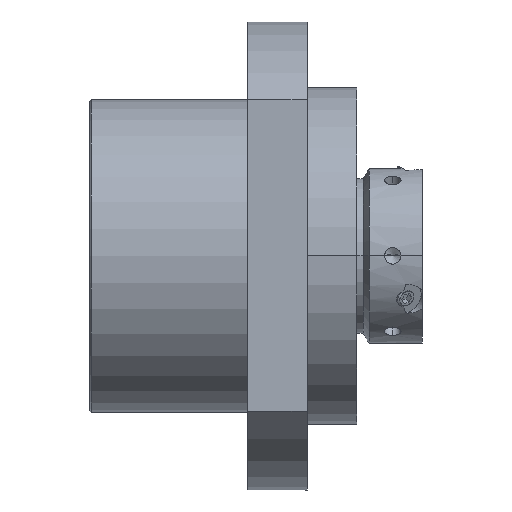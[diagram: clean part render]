
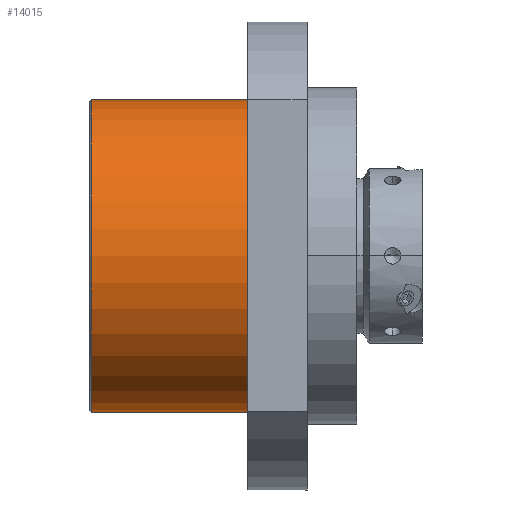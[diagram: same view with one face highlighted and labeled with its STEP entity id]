
A CAD part, top view. The second image highlights one B-rep face of the part: STEP entity #14015.
In plain terms, the highlighted cylindrical face has radius 47.5 mm (diameter 95 mm), a partial arc.
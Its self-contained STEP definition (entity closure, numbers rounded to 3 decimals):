
#276 = CYLINDRICAL_SURFACE ( 'NONE', #11682, 47.5 ) ;
#311 = DIRECTION ( 'NONE',  ( -1., 0., 0. ) ) ;
#460 = EDGE_CURVE ( 'NONE', #17884, #5199, #9783, .T. ) ;
#507 = VERTEX_POINT ( 'NONE', #15328 ) ;
#1812 = DIRECTION ( 'NONE',  ( -1., 0., 0. ) ) ;
#3709 = EDGE_CURVE ( 'NONE', #5199, #8458, #14455, .T. ) ;
#3875 = FACE_OUTER_BOUND ( 'NONE', #8011, .T. ) ;
#3937 = EDGE_CURVE ( 'NONE', #507, #8458, #22834, .T. ) ;
#3946 = CARTESIAN_POINT ( 'NONE',  ( -2.5, -47.5, 0. ) ) ;
#4217 = DIRECTION ( 'NONE',  ( -1., 0., 0. ) ) ;
#5199 = VERTEX_POINT ( 'NONE', #14263 ) ;
#8011 = EDGE_LOOP ( 'NONE', ( #18388, #20613, #15722, #16279 ) ) ;
#8057 = CARTESIAN_POINT ( 'NONE',  ( 48., -47.5, 0. ) ) ;
#8458 = VERTEX_POINT ( 'NONE', #21562 ) ;
#9212 = DIRECTION ( 'NONE',  ( -1., 0., 0. ) ) ;
#9281 = AXIS2_PLACEMENT_3D ( 'NONE', #11372, #1812, #15249 ) ;
#9764 = DIRECTION ( 'NONE',  ( 0., -1., 0. ) ) ;
#9783 = CIRCLE ( 'NONE', #9281, 47.5 ) ;
#10754 = LINE ( 'NONE', #3946, #14981 ) ;
#11372 = CARTESIAN_POINT ( 'NONE',  ( 48., 0., 0. ) ) ;
#11682 = AXIS2_PLACEMENT_3D ( 'NONE', #19648, #4217, #9764 ) ;
#13557 = EDGE_CURVE ( 'NONE', #17884, #507, #10754, .T. ) ;
#14015 = ADVANCED_FACE ( 'NONE', ( #3875 ), #276, .T. ) ;
#14263 = CARTESIAN_POINT ( 'NONE',  ( 48., 47.5, 0. ) ) ;
#14455 = LINE ( 'NONE', #23531, #24041 ) ;
#14745 = DIRECTION ( 'NONE',  ( 0., -1., 0. ) ) ;
#14981 = VECTOR ( 'NONE', #22898, 1000. ) ;
#15249 = DIRECTION ( 'NONE',  ( 0., -1., 0. ) ) ;
#15328 = CARTESIAN_POINT ( 'NONE',  ( 0.5, -47.5, 0. ) ) ;
#15722 = ORIENTED_EDGE ( 'NONE', *, *, #3937, .F. ) ;
#16279 = ORIENTED_EDGE ( 'NONE', *, *, #13557, .F. ) ;
#16908 = CARTESIAN_POINT ( 'NONE',  ( 0.5, 0., 0. ) ) ;
#17884 = VERTEX_POINT ( 'NONE', #8057 ) ;
#18058 = AXIS2_PLACEMENT_3D ( 'NONE', #16908, #9212, #14745 ) ;
#18388 = ORIENTED_EDGE ( 'NONE', *, *, #460, .T. ) ;
#19648 = CARTESIAN_POINT ( 'NONE',  ( -2.5, 0., 0. ) ) ;
#20613 = ORIENTED_EDGE ( 'NONE', *, *, #3709, .T. ) ;
#21562 = CARTESIAN_POINT ( 'NONE',  ( 0.5, 47.5, 0. ) ) ;
#22834 = CIRCLE ( 'NONE', #18058, 47.5 ) ;
#22898 = DIRECTION ( 'NONE',  ( -1., 0., 0. ) ) ;
#23531 = CARTESIAN_POINT ( 'NONE',  ( -2.5, 47.5, 0. ) ) ;
#24041 = VECTOR ( 'NONE', #311, 1000. ) ;
